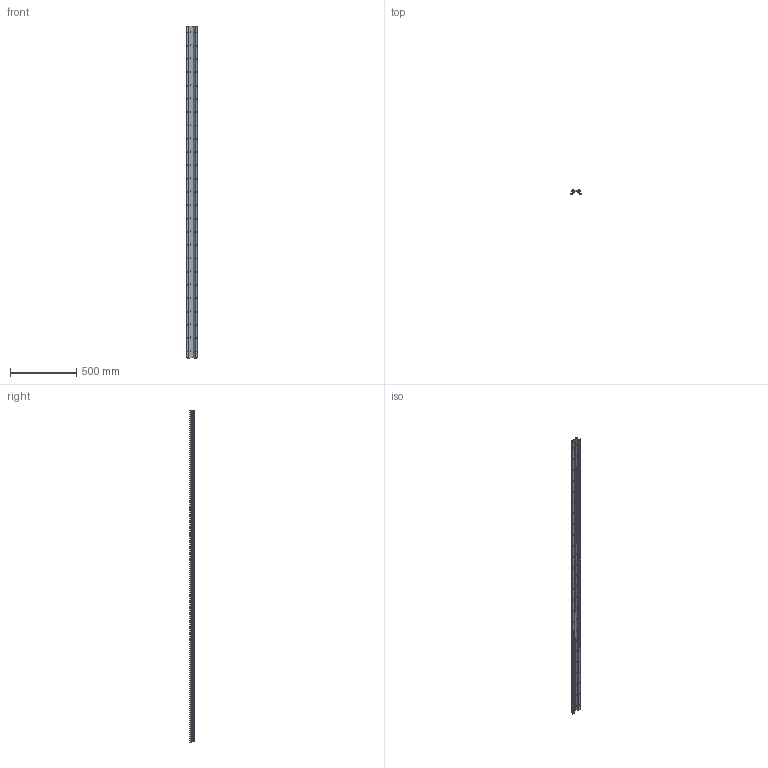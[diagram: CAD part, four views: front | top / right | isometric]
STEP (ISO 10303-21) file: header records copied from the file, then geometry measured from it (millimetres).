
FILE_DESCRIPTION (( 'STEP AP203' ), '1' );
FILE_NAME ('LF 3_-_LF 2 2498 mm lang.step', '2005-06-03T06:32:48', ( ' ' ), ( ' ' ), 'SwSTEP 2.0', 'SolidWorks 2004231', '' );
FILE_SCHEMA (( 'CONFIG_CONTROL_DESIGN' ));
Length unit declared in the file: millimetre
Products named in the file (1): LF 3_-_LF 2  2498 mm lang
Bounding box: 90 x 31 x 2498 mm (x, y, z)
Volume: 2616175.9 mm3; surface area: 805403.5 mm2
Topology: 1 solids, 1 shells, 1129 faces, 2835 edges, 1704 vertices
Faces by surface type: cylinder 529, plane 400, torus 100, cone 100
Entity records: 34086 total; most frequent: CARTESIAN_POINT 8819, ORIENTED_EDGE 5470, DIRECTION 4861, EDGE_CURVE 2735, AXIS2_PLACEMENT_3D 1746, VERTEX_POINT 1704, LINE 1369, VECTOR 1369
